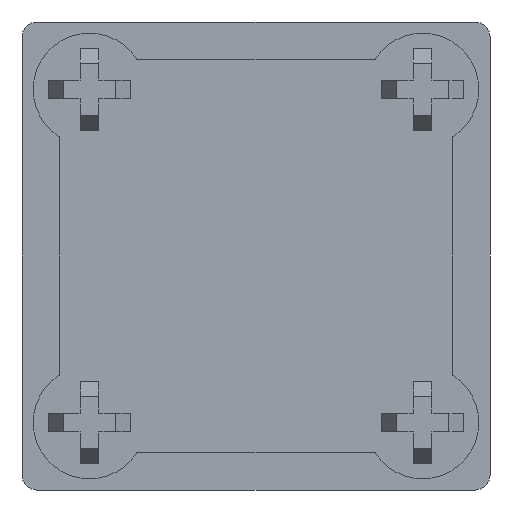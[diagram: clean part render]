
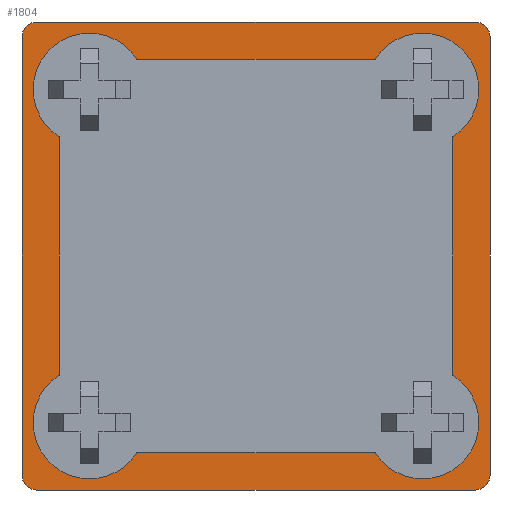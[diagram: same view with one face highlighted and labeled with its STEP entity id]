
A CAD part, front view. The second image highlights one B-rep face of the part: STEP entity #1804.
In plain terms, the highlighted planar face has unit normal (0, -1, 0).
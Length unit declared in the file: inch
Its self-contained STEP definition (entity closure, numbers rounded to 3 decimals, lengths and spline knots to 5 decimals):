
#19=FACE_BOUND('',#254,.T.);
#44=CIRCLE('',#1913,0.0315);
#45=CIRCLE('',#1916,0.0315);
#46=CIRCLE('',#1919,0.0315);
#47=CIRCLE('',#1922,0.0315);
#48=CIRCLE('',#1924,0.11811);
#50=CIRCLE('',#1928,0.11811);
#52=CIRCLE('',#1932,0.11811);
#54=CIRCLE('',#1936,0.11811);
#154=FACE_OUTER_BOUND('',#253,.T.);
#253=EDGE_LOOP('',(#1615,#1616,#1617,#1618,#1619,#1620,#1621,#1622));
#254=EDGE_LOOP('',(#1623,#1624,#1625,#1626,#1627,#1628,#1629,#1630));
#456=LINE('',#2951,#684);
#460=LINE('',#2960,#688);
#465=LINE('',#2975,#693);
#468=LINE('',#2989,#696);
#472=LINE('',#3001,#700);
#476=LINE('',#3013,#704);
#480=LINE('',#3024,#708);
#482=LINE('',#3028,#710);
#684=VECTOR('',#2315,0.3937);
#688=VECTOR('',#2325,0.3937);
#693=VECTOR('',#2342,0.3937);
#696=VECTOR('',#2357,0.3937);
#700=VECTOR('',#2369,0.3937);
#704=VECTOR('',#2381,0.3937);
#708=VECTOR('',#2393,0.3937);
#710=VECTOR('',#2399,0.3937);
#851=VERTEX_POINT('',#2948);
#852=VERTEX_POINT('',#2950);
#853=VERTEX_POINT('',#2954);
#854=VERTEX_POINT('',#2958);
#855=VERTEX_POINT('',#2962);
#856=VERTEX_POINT('',#2967);
#857=VERTEX_POINT('',#2969);
#858=VERTEX_POINT('',#2973);
#859=VERTEX_POINT('',#2979);
#860=VERTEX_POINT('',#2980);
#863=VERTEX_POINT('',#2988);
#865=VERTEX_POINT('',#2994);
#867=VERTEX_POINT('',#3000);
#869=VERTEX_POINT('',#3006);
#871=VERTEX_POINT('',#3012);
#873=VERTEX_POINT('',#3018);
#1088=EDGE_CURVE('',#852,#851,#456,.T.);
#1091=EDGE_CURVE('',#853,#851,#44,.T.);
#1093=EDGE_CURVE('',#853,#854,#460,.T.);
#1095=EDGE_CURVE('',#855,#854,#45,.T.);
#1097=EDGE_CURVE('',#856,#857,#46,.T.);
#1100=EDGE_CURVE('',#856,#858,#465,.T.);
#1101=EDGE_CURVE('',#852,#858,#47,.T.);
#1102=EDGE_CURVE('',#859,#860,#48,.T.);
#1106=EDGE_CURVE('',#863,#859,#468,.T.);
#1109=EDGE_CURVE('',#865,#863,#50,.T.);
#1112=EDGE_CURVE('',#867,#865,#472,.T.);
#1115=EDGE_CURVE('',#869,#867,#52,.T.);
#1118=EDGE_CURVE('',#871,#869,#476,.T.);
#1121=EDGE_CURVE('',#873,#871,#54,.T.);
#1124=EDGE_CURVE('',#860,#873,#480,.T.);
#1126=EDGE_CURVE('',#855,#857,#482,.T.);
#1615=ORIENTED_EDGE('',*,*,#1097,.F.);
#1616=ORIENTED_EDGE('',*,*,#1100,.T.);
#1617=ORIENTED_EDGE('',*,*,#1101,.F.);
#1618=ORIENTED_EDGE('',*,*,#1088,.T.);
#1619=ORIENTED_EDGE('',*,*,#1091,.F.);
#1620=ORIENTED_EDGE('',*,*,#1093,.T.);
#1621=ORIENTED_EDGE('',*,*,#1095,.F.);
#1622=ORIENTED_EDGE('',*,*,#1126,.T.);
#1623=ORIENTED_EDGE('',*,*,#1102,.T.);
#1624=ORIENTED_EDGE('',*,*,#1124,.T.);
#1625=ORIENTED_EDGE('',*,*,#1121,.T.);
#1626=ORIENTED_EDGE('',*,*,#1118,.T.);
#1627=ORIENTED_EDGE('',*,*,#1115,.T.);
#1628=ORIENTED_EDGE('',*,*,#1112,.T.);
#1629=ORIENTED_EDGE('',*,*,#1109,.T.);
#1630=ORIENTED_EDGE('',*,*,#1106,.T.);
#1709=PLANE('',#1941);
#1804=ADVANCED_FACE('',(#154,#19),#1709,.T.);
#1913=AXIS2_PLACEMENT_3D('',#2956,#2320,#2321);
#1916=AXIS2_PLACEMENT_3D('',#2964,#2329,#2330);
#1919=AXIS2_PLACEMENT_3D('',#2970,#2336,#2337);
#1922=AXIS2_PLACEMENT_3D('',#2977,#2345,#2346);
#1924=AXIS2_PLACEMENT_3D('',#2981,#2349,#2350);
#1928=AXIS2_PLACEMENT_3D('',#2995,#2362,#2363);
#1932=AXIS2_PLACEMENT_3D('',#3007,#2374,#2375);
#1936=AXIS2_PLACEMENT_3D('',#3019,#2386,#2387);
#1941=AXIS2_PLACEMENT_3D('',#3029,#2400,#2401);
#2315=DIRECTION('',(0.,0.,-1.));
#2320=DIRECTION('center_axis',(0.,1.,0.));
#2321=DIRECTION('ref_axis',(-0.707,0.,-0.707));
#2325=DIRECTION('',(1.,0.,0.));
#2329=DIRECTION('center_axis',(0.,1.,0.));
#2330=DIRECTION('ref_axis',(0.707,0.,-0.707));
#2336=DIRECTION('center_axis',(0.,1.,0.));
#2337=DIRECTION('ref_axis',(0.707,0.,0.707));
#2342=DIRECTION('',(-1.,0.,0.));
#2345=DIRECTION('center_axis',(0.,1.,0.));
#2346=DIRECTION('ref_axis',(-0.707,0.,0.707));
#2349=DIRECTION('center_axis',(0.,1.,0.));
#2350=DIRECTION('ref_axis',(0.846,0.,0.533));
#2357=DIRECTION('',(0.,0.,-1.));
#2362=DIRECTION('center_axis',(0.,1.,0.));
#2363=DIRECTION('ref_axis',(-0.533,0.,0.846));
#2369=DIRECTION('',(1.,0.,0.));
#2374=DIRECTION('center_axis',(0.,1.,0.));
#2375=DIRECTION('ref_axis',(-0.846,0.,-0.533));
#2381=DIRECTION('',(0.,0.,1.));
#2386=DIRECTION('center_axis',(0.,1.,0.));
#2387=DIRECTION('ref_axis',(0.533,0.,-0.846));
#2393=DIRECTION('',(-1.,0.,0.));
#2399=DIRECTION('',(0.,0.,1.));
#2400=DIRECTION('center_axis',(0.,-1.,0.));
#2401=DIRECTION('ref_axis',(0.,0.,-1.));
#2948=CARTESIAN_POINT('',(-0.49213,-0.11811,-0.46063));
#2950=CARTESIAN_POINT('',(-0.49213,-0.11811,0.46063));
#2951=CARTESIAN_POINT('',(-0.49213,-0.11811,-0.49213));
#2954=CARTESIAN_POINT('',(-0.46063,-0.11811,-0.49213));
#2956=CARTESIAN_POINT('Origin',(-0.46063,-0.11811,-0.46063));
#2958=CARTESIAN_POINT('',(0.46063,-0.11811,-0.49213));
#2960=CARTESIAN_POINT('',(0.49213,-0.11811,-0.49213));
#2962=CARTESIAN_POINT('',(0.49213,-0.11811,-0.46063));
#2964=CARTESIAN_POINT('Origin',(0.46063,-0.11811,-0.46063));
#2967=CARTESIAN_POINT('',(0.46063,-0.11811,0.49213));
#2969=CARTESIAN_POINT('',(0.49213,-0.11811,0.46063));
#2970=CARTESIAN_POINT('Origin',(0.46063,-0.11811,0.46063));
#2973=CARTESIAN_POINT('',(-0.46063,-0.11811,0.49213));
#2975=CARTESIAN_POINT('',(-0.49213,-0.11811,0.49213));
#2977=CARTESIAN_POINT('Origin',(-0.46063,-0.11811,0.46063));
#2979=CARTESIAN_POINT('',(0.41339,-0.11811,-0.25048));
#2980=CARTESIAN_POINT('',(0.25048,-0.11811,-0.41339));
#2981=CARTESIAN_POINT('Origin',(0.35039,-0.11811,-0.35039));
#2988=CARTESIAN_POINT('',(0.41339,-0.11811,0.25048));
#2989=CARTESIAN_POINT('',(0.41339,-0.11811,0.12524));
#2994=CARTESIAN_POINT('',(0.25048,-0.11811,0.41339));
#2995=CARTESIAN_POINT('Origin',(0.35039,-0.11811,0.35039));
#3000=CARTESIAN_POINT('',(-0.25048,-0.11811,0.41339));
#3001=CARTESIAN_POINT('',(-0.12524,-0.11811,0.41339));
#3006=CARTESIAN_POINT('',(-0.41339,-0.11811,0.25048));
#3007=CARTESIAN_POINT('Origin',(-0.35039,-0.11811,0.35039));
#3012=CARTESIAN_POINT('',(-0.41339,-0.11811,-0.25048));
#3013=CARTESIAN_POINT('',(-0.41339,-0.11811,-0.12524));
#3018=CARTESIAN_POINT('',(-0.25048,-0.11811,-0.41339));
#3019=CARTESIAN_POINT('Origin',(-0.35039,-0.11811,-0.35039));
#3024=CARTESIAN_POINT('',(0.12524,-0.11811,-0.41339));
#3028=CARTESIAN_POINT('',(0.49213,-0.11811,0.49213));
#3029=CARTESIAN_POINT('Origin',(0.,-0.11811,0.));
